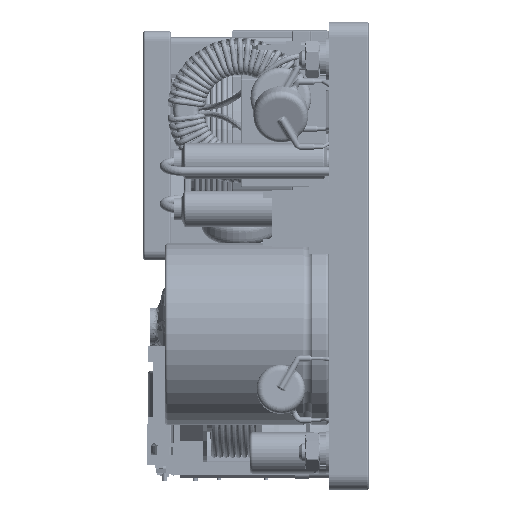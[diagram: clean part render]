
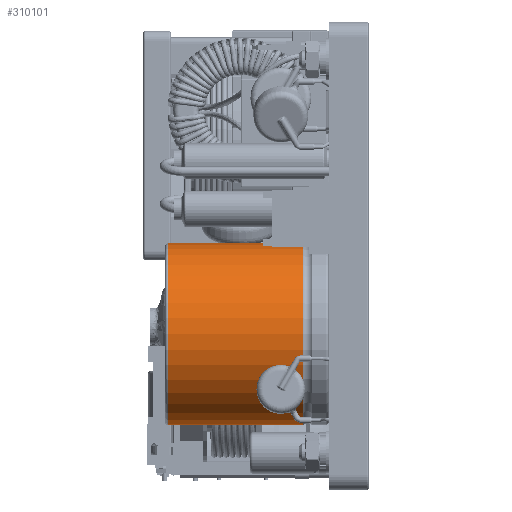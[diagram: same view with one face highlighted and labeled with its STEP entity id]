
A CAD part, left-side view. The second image highlights one B-rep face of the part: STEP entity #310101.
In plain terms, the highlighted cylindrical face has radius 15 mm (diameter 30 mm), a partial arc.
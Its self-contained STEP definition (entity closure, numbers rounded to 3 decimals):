
#4899 = DIRECTION ( 'NONE',  ( 0., 1., 0. ) ) ;
#25785 = CIRCLE ( 'NONE', #266747, 15. ) ;
#28250 = VECTOR ( 'NONE', #4899, 1000. ) ;
#41473 = CARTESIAN_POINT ( 'NONE',  ( 0., 26.5, 15. ) ) ;
#46583 = DIRECTION ( 'NONE',  ( 0., 0., 1. ) ) ;
#56793 = VECTOR ( 'NONE', #295076, 1000. ) ;
#65827 = AXIS2_PLACEMENT_3D ( 'NONE', #230775, #225338, #171890 ) ;
#70243 = CARTESIAN_POINT ( 'NONE',  ( 0., 42.557, -15. ) ) ;
#91036 = VERTEX_POINT ( 'NONE', #265083 ) ;
#97728 = DIRECTION ( 'NONE',  ( 0., 1., 0. ) ) ;
#149325 = CARTESIAN_POINT ( 'NONE',  ( 0., 26.5, 0. ) ) ;
#160674 = CARTESIAN_POINT ( 'NONE',  ( 0., 4.214, 0. ) ) ;
#168320 = ORIENTED_EDGE ( 'NONE', *, *, #190947, .F. ) ;
#171890 = DIRECTION ( 'NONE',  ( 0., 0., 1. ) ) ;
#180702 = EDGE_CURVE ( 'NONE', #187066, #91036, #25785, .T. ) ;
#187066 = VERTEX_POINT ( 'NONE', #338363 ) ;
#190947 = EDGE_CURVE ( 'NONE', #187066, #363748, #322692, .T. ) ;
#203647 = LINE ( 'NONE', #316294, #28250 ) ;
#209959 = DIRECTION ( 'NONE',  ( 0., 0., 1. ) ) ;
#210862 = EDGE_CURVE ( 'NONE', #363748, #292229, #261001, .T. ) ;
#225338 = DIRECTION ( 'NONE',  ( 0., 1., 0. ) ) ;
#230775 = CARTESIAN_POINT ( 'NONE',  ( 0., 42.557, 0. ) ) ;
#233915 = ORIENTED_EDGE ( 'NONE', *, *, #277124, .T. ) ;
#234153 = CARTESIAN_POINT ( 'NONE',  ( 0., 26.5, -15. ) ) ;
#261001 = CIRCLE ( 'NONE', #284757, 15. ) ;
#263745 = ORIENTED_EDGE ( 'NONE', *, *, #180702, .T. ) ;
#265083 = CARTESIAN_POINT ( 'NONE',  ( 0., 4.214, 15. ) ) ;
#266747 = AXIS2_PLACEMENT_3D ( 'NONE', #160674, #298992, #46583 ) ;
#277124 = EDGE_CURVE ( 'NONE', #91036, #292229, #203647, .T. ) ;
#284757 = AXIS2_PLACEMENT_3D ( 'NONE', #149325, #97728, #209959 ) ;
#292229 = VERTEX_POINT ( 'NONE', #41473 ) ;
#295076 = DIRECTION ( 'NONE',  ( 0., 1., 0. ) ) ;
#298992 = DIRECTION ( 'NONE',  ( 0., 1., 0. ) ) ;
#310101 = ADVANCED_FACE ( 'NONE', ( #330728 ), #334367, .T. ) ;
#316294 = CARTESIAN_POINT ( 'NONE',  ( 0., 42.557, 15. ) ) ;
#322692 = LINE ( 'NONE', #70243, #56793 ) ;
#330728 = FACE_OUTER_BOUND ( 'NONE', #335374, .T. ) ;
#334367 = CYLINDRICAL_SURFACE ( 'NONE', #65827, 15. ) ;
#335374 = EDGE_LOOP ( 'NONE', ( #168320, #263745, #233915, #356035 ) ) ;
#338363 = CARTESIAN_POINT ( 'NONE',  ( 0., 4.214, -15. ) ) ;
#356035 = ORIENTED_EDGE ( 'NONE', *, *, #210862, .F. ) ;
#363748 = VERTEX_POINT ( 'NONE', #234153 ) ;
